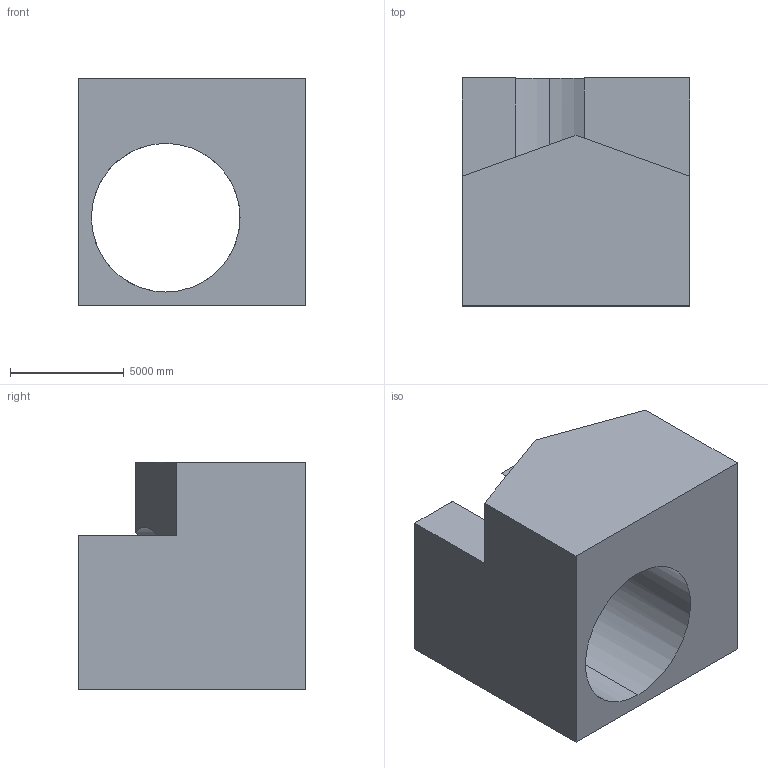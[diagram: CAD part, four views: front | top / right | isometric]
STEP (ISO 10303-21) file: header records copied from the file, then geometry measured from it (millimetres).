
FILE_DESCRIPTION (( 'STEP AP203' ), '1' );
FILE_NAME ('68.STEP', '2022-07-28T13:32:17', ( 'user' ), ( '' ), 'SwSTEP 2.0', 'SolidWorks 2021', '' );
FILE_SCHEMA (( 'CONFIG_CONTROL_DESIGN' ));
Length unit declared in the file: centimetre
Products named in the file (1): 68
Bounding box: 10000 x 10000 x 10000 mm (x, y, z)
Volume: 557282099737.7 mm3; surface area: 693994121.9 mm2
Topology: 1 solids, 1 shells, 12 faces, 33 edges, 22 vertices
Faces by surface type: plane 10, cylinder 2
Entity records: 462 total; most frequent: CARTESIAN_POINT 77, ORIENTED_EDGE 66, DIRECTION 60, EDGE_CURVE 33, VECTOR 26, LINE 26, VERTEX_POINT 22, AXIS2_PLACEMENT_3D 17
